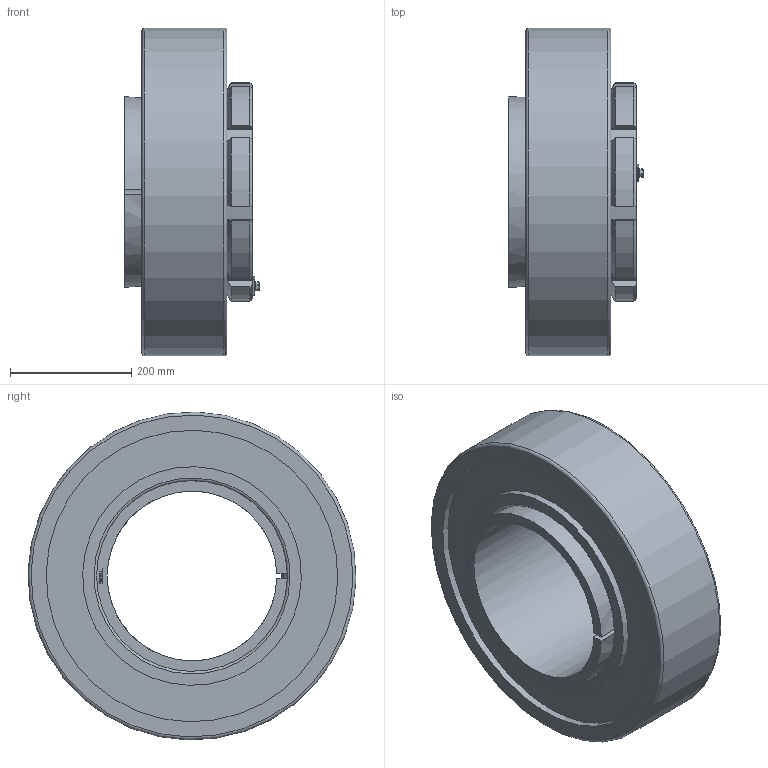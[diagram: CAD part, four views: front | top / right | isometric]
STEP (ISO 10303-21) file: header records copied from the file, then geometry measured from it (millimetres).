
FILE_DESCRIPTION( ( 'STEP AP203' ), ' ' );
FILE_NAME( 'p:/temp/worker_351/2348_356/app_90_02016102823035883713723192d056f_000000_00_00_000000/format_0/BGL HE 3160 TL+22260K.stp', '2016-10-28T21:04:00', ( '' ), ( '' ), ' ', 'PARTsolutions', ' ' );
FILE_SCHEMA( ( 'CONFIG_CONTROL_DESIGN' ) );
Length unit declared in the file: millimetre
Products named in the file (6): BGL HE 3160 TL+22260K; _BGLHE3160TLB; _BGL HM 3060; _BGLHE3160TL+HE-22260K; _BGL MS 3060part; _BGL MS 3060HHS
Assembly tree (5 placements, depth 2):
  BGL HE 3160 TL+22260K
    _BGLHE3160TLB
    _BGL HM 3060
    _BGLHE3160TL+HE-22260K
    _BGL MS 3060part
    _BGL MS 3060HHS
Bounding box: 221.05 x 539.82 x 539.82 mm (x, y, z)
Volume: 23479457.1 mm3; surface area: 1296616.1 mm2
Topology: 5 solids, 5 shells, 351 faces, 899 edges, 589 vertices
Faces by surface type: plane 230, cylinder 79, cone 38, torus 4
Full cylindrical faces by diameter (mm): 8 x9, 9 x1, 14.8 x1, 296 x1, 360 x2, 480 x2, 540 x1
Entity records: 10762 total; most frequent: CARTESIAN_POINT 2104, DIRECTION 1729, ORIENTED_EDGE 1726, EDGE_CURVE 863, VERTEX_POINT 586, AXIS2_PLACEMENT_3D 577, LINE 575, VECTOR 575
